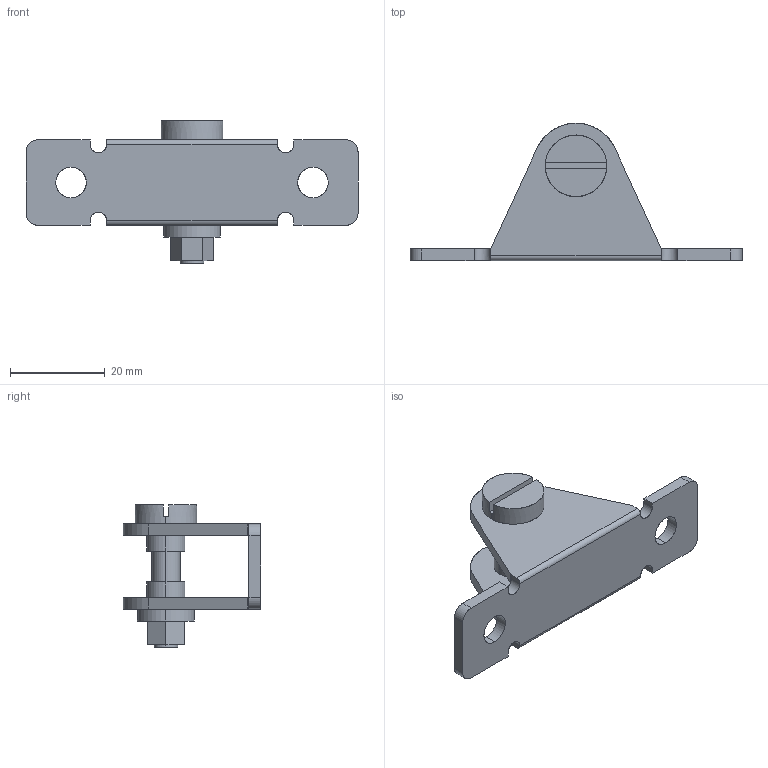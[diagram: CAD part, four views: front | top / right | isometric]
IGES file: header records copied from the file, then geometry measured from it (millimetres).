
Start section: SolidWorks IGES file using analytic representation for surfaces
Bounding box: 70 x 29 x 30 mm (x, y, z)
Surface area: 6170.7 mm2 (no closed solid volume)
Topology: 0 solids, 0 shells, 74 faces, 1144 edges, 1144 vertices
Faces by surface type: bspline 40, revolution 34
